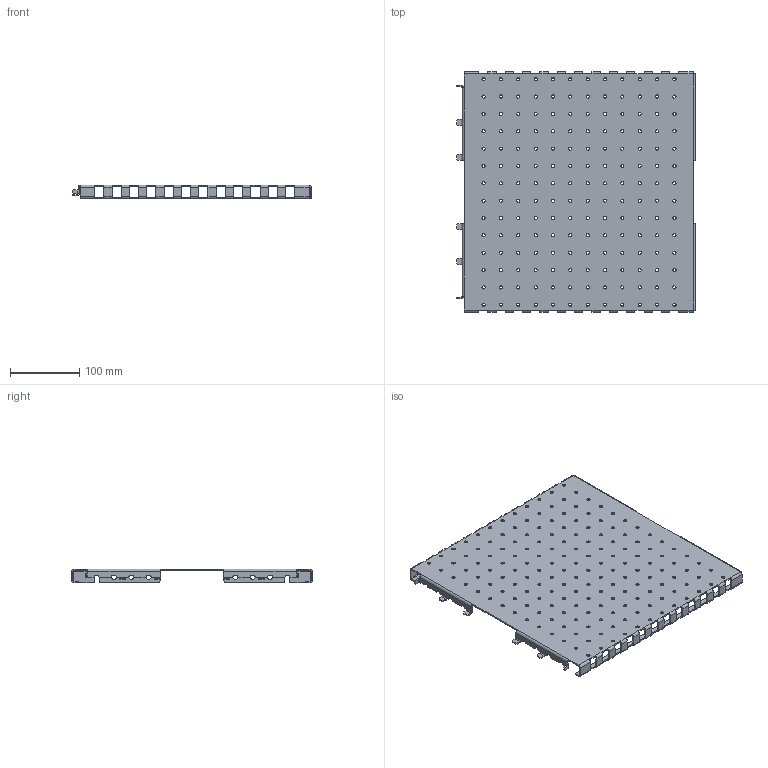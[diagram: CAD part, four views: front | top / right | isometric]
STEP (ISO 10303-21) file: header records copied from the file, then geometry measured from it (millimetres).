
FILE_DESCRIPTION(('STEP AP203'), '1');
FILE_NAME('Îãðàæäåíèå ñáîðíîé øèíû áîêîâîå ìîíòàæíîå 350õ450 ìì OptiBox M 420070 ÊÝÀÇ', '', ('UNSPECIFIED'), ('UNSPECIFIED'), 'C3D Converter', 'C3D Toolkit', '');
FILE_SCHEMA(('CONFIG_CONTROL_DESIGN'));
Length unit declared in the file: millimetre
Bounding box: 344.3 x 347 x 20 mm (x, y, z)
Volume: 256901.8 mm3; surface area: 268801.7 mm2
Topology: 1 solids, 1 shells, 578 faces, 1580 edges, 956 vertices
Faces by surface type: cylinder 310, plane 268
Full cylindrical faces by diameter (mm): 4.6 x168, 7.3 x6
Entity records: 18090 total; most frequent: DIRECTION 3184, CARTESIAN_POINT 2941, ORIENTED_EDGE 2812, EDGE_CURVE 1406, AXIS2_PLACEMENT_3D 1199, EDGE_LOOP 1100, VERTEX_POINT 956, LINE 786
